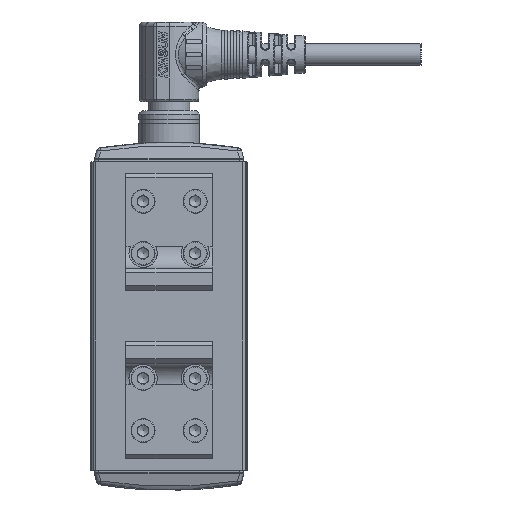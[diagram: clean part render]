
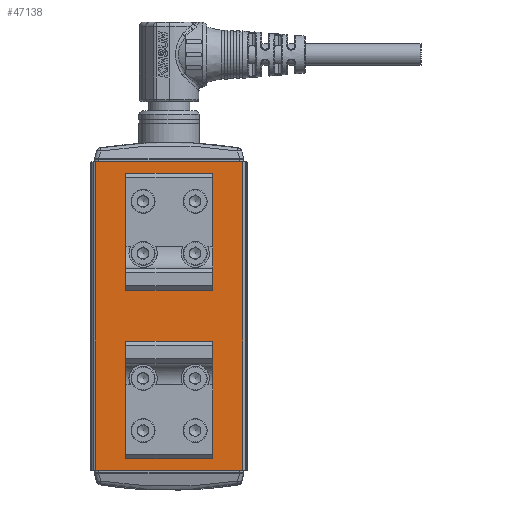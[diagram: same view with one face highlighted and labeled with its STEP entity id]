
A CAD part, top view. The second image highlights one B-rep face of the part: STEP entity #47138.
In plain terms, the highlighted planar face has unit normal (0, 0, 1).
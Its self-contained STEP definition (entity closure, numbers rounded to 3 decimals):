
#3715=PLANE('',#50246);
#5632=FACE_OUTER_BOUND('',#8254,.T.);
#8254=EDGE_LOOP('',(#33478,#33479,#33480,#33481));
#11130=LINE('',#70557,#14782);
#11180=LINE('',#70696,#14832);
#11181=LINE('',#70698,#14833);
#11182=LINE('',#70699,#14834);
#14782=VECTOR('',#55907,1000.);
#14832=VECTOR('',#56013,1000.);
#14833=VECTOR('',#56014,1000.);
#14834=VECTOR('',#56015,1000.);
#21423=VERTEX_POINT('',#70555);
#21424=VERTEX_POINT('',#70556);
#21485=VERTEX_POINT('',#70695);
#21486=VERTEX_POINT('',#70697);
#26127=EDGE_CURVE('',#21423,#21424,#11130,.T.);
#26197=EDGE_CURVE('',#21424,#21485,#11180,.T.);
#26198=EDGE_CURVE('',#21486,#21485,#11181,.T.);
#26199=EDGE_CURVE('',#21486,#21423,#11182,.T.);
#33478=ORIENTED_EDGE('',*,*,#26127,.T.);
#33479=ORIENTED_EDGE('',*,*,#26197,.T.);
#33480=ORIENTED_EDGE('',*,*,#26198,.F.);
#33481=ORIENTED_EDGE('',*,*,#26199,.T.);
#47138=ADVANCED_FACE('',(#5632),#3715,.F.);
#50246=AXIS2_PLACEMENT_3D('',#70694,#56011,#56012);
#55907=DIRECTION('',(-1.,0.,0.));
#56011=DIRECTION('center_axis',(0.,0.,-1.));
#56012=DIRECTION('ref_axis',(1.,0.,0.));
#56013=DIRECTION('',(0.,-1.,0.));
#56014=DIRECTION('',(-1.,0.,0.));
#56015=DIRECTION('',(0.,1.,0.));
#70555=CARTESIAN_POINT('',(17.,35.5,44.));
#70556=CARTESIAN_POINT('',(-17.,35.5,44.));
#70557=CARTESIAN_POINT('',(-17.5,35.5,44.));
#70694=CARTESIAN_POINT('Origin',(-17.5,-35.5,44.));
#70695=CARTESIAN_POINT('',(-17.,-35.5,44.));
#70696=CARTESIAN_POINT('',(-17.,-35.5,44.));
#70697=CARTESIAN_POINT('',(17.,-35.5,44.));
#70698=CARTESIAN_POINT('',(-17.5,-35.5,44.));
#70699=CARTESIAN_POINT('',(17.,-35.5,44.));
